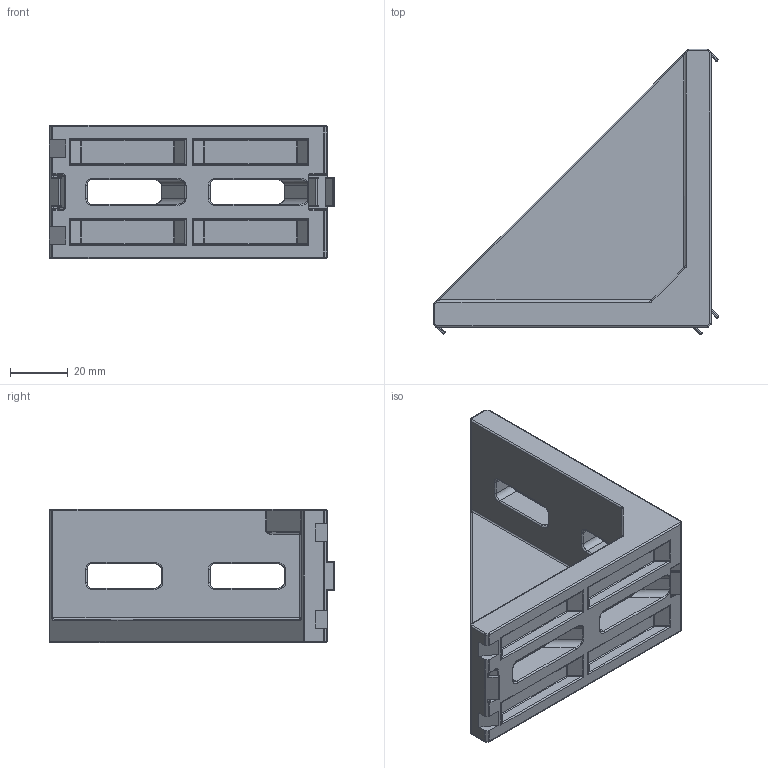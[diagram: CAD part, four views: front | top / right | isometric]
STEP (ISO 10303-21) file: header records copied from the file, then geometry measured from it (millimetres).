
FILE_DESCRIPTION(/* description */ ('Squadretta con centraggio cava 10 per profilo serie 50'),/* implementation_level */ '2;1');
FILE_NAME(/* name */ 'C:\omnitec\Desktop\Squadrette\SQ46-96D10.stp',/* time_stamp */ '2021-02-19T09:14:55+01:00',/* author */ ('omnitec'),/* organization */ (''),/* preprocessor_version */ 'ST-DEVELOPER v18.1',/* originating_system */ 'Autodesk Inventor 2021',/* authorisation */ '');
FILE_SCHEMA (('AUTOMOTIVE_DESIGN { 1 0 10303 214 3 1 1 }'));
Length unit declared in the file: millimetre
Products named in the file (1): SQ46-96D10
Bounding box: 98.56 x 98.56 x 46 mm (x, y, z)
Volume: 86472.7 mm3; surface area: 30927.2 mm2
Topology: 1 solids, 1 shells, 578 faces, 1355 edges, 716 vertices
Faces by surface type: cylinder 255, plane 121, bspline 108, sphere 72, torus 22
Entity records: 20779 total; most frequent: CARTESIAN_POINT 8381, DIRECTION 2648, ORIENTED_EDGE 2572, EDGE_CURVE 1286, AXIS2_PLACEMENT_3D 1031, VERTEX_POINT 716, EDGE_LOOP 592, LINE 586
